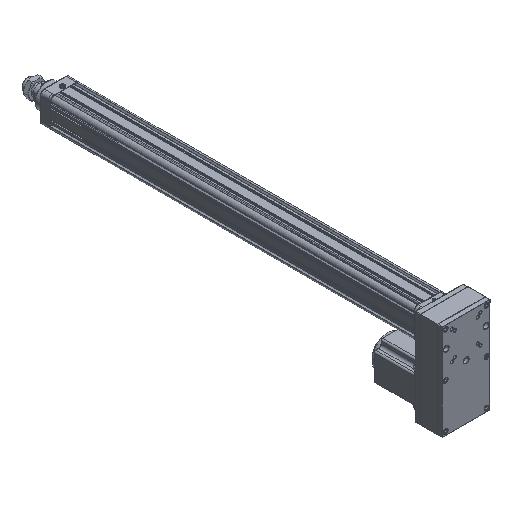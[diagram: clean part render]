
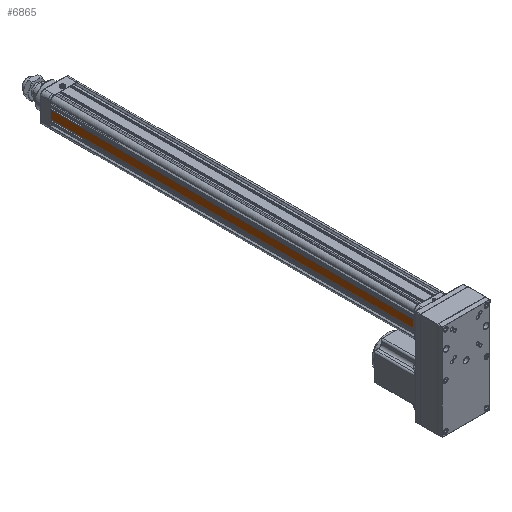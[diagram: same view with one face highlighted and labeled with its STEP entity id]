
A CAD part, isometric view. The second image highlights one B-rep face of the part: STEP entity #6865.
In plain terms, the highlighted planar face has unit normal (-1, 0, 0).
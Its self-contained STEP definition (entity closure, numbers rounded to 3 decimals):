
#3174=DIRECTION('',(0.,0.,1.));
#3175=VECTOR('',#3174,27.8);
#3176=CARTESIAN_POINT('',(-46.5,-569.,-13.9));
#3177=LINE('',#3176,#3175);
#3876=DIRECTION('',(0.,0.,1.));
#3877=VECTOR('',#3876,27.8);
#3878=CARTESIAN_POINT('',(-46.5,569.,-13.9));
#3879=LINE('',#3878,#3877);
#4325=DIRECTION('',(0.,-1.,0.));
#4326=VECTOR('',#4325,1138.);
#4327=CARTESIAN_POINT('',(-46.5,569.,-13.9));
#4328=LINE('',#4327,#4326);
#4329=DIRECTION('',(0.,1.,0.));
#4330=VECTOR('',#4329,1138.);
#4331=CARTESIAN_POINT('',(-46.5,-569.,13.9));
#4332=LINE('',#4331,#4330);
#5236=CARTESIAN_POINT('',(-46.5,-569.,-13.9));
#5238=VERTEX_POINT('',#5236);
#5252=CARTESIAN_POINT('',(-46.5,569.,-13.9));
#5254=VERTEX_POINT('',#5252);
#5421=CARTESIAN_POINT('',(-46.5,-569.,13.9));
#5422=VERTEX_POINT('',#5421);
#5437=CARTESIAN_POINT('',(-46.5,569.,13.9));
#5438=VERTEX_POINT('',#5437);
#6852=CARTESIAN_POINT('',(-46.5,-569.,-46.5));
#6853=DIRECTION('',(-1.,0.,0.));
#6854=DIRECTION('',(0.,0.,1.));
#6855=AXIS2_PLACEMENT_3D('',#6852,#6853,#6854);
#6856=PLANE('',#6855);
#6858=ORIENTED_EDGE('',*,*,#6857,.F.);
#6859=ORIENTED_EDGE('',*,*,#6357,.T.);
#6861=ORIENTED_EDGE('',*,*,#6860,.F.);
#6862=ORIENTED_EDGE('',*,*,#5868,.F.);
#6863=EDGE_LOOP('',(#6858,#6859,#6861,#6862));
#6864=FACE_OUTER_BOUND('',#6863,.F.);
#6865=ADVANCED_FACE('',(#6864),#6856,.T.);
#5868=EDGE_CURVE('',#5238,#5422,#3177,.T.);
#6357=EDGE_CURVE('',#5254,#5438,#3879,.T.);
#6857=EDGE_CURVE('',#5254,#5238,#4328,.T.);
#6860=EDGE_CURVE('',#5422,#5438,#4332,.T.);
